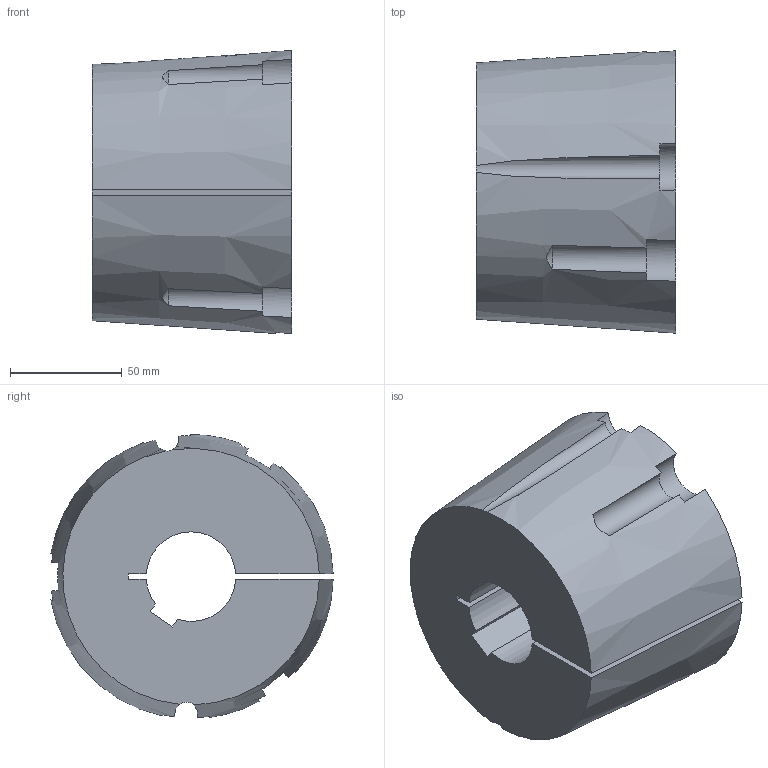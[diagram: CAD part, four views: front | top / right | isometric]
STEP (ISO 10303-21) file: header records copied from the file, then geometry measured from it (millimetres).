
FILE_DESCRIPTION( ( 'STEP AP203' ), '1' );
FILE_NAME( 'D:/export/antriebselemente/spannbuchsen_und_spannsaetze/taper-spannbuchsen_1008_bis_5050/taper-spannbuchsen_62251040Isometric_207.stp', '2018-12-11T11:11:26', ( '' ), ( '' ), ' ', 'PARTsolutions', ' ' );
FILE_SCHEMA( ( 'CONFIG_CONTROL_DESIGN' ) );
Length unit declared in the file: millimetre
Products named in the file (1): _taper-spannbuchsen_62251040
Bounding box: 89 x 126.13 x 126.46 mm (x, y, z)
Volume: 871103.5 mm3; surface area: 75789.5 mm2
Topology: 1 solids, 1 shells, 34 faces, 96 edges, 64 vertices
Faces by surface type: plane 15, cylinder 13, cone 6
Entity records: 1315 total; most frequent: CARTESIAN_POINT 391, ORIENTED_EDGE 192, DIRECTION 186, EDGE_CURVE 96, AXIS2_PLACEMENT_3D 80, VERTEX_POINT 64, CIRCLE 45, ADVANCED_FACE 34
